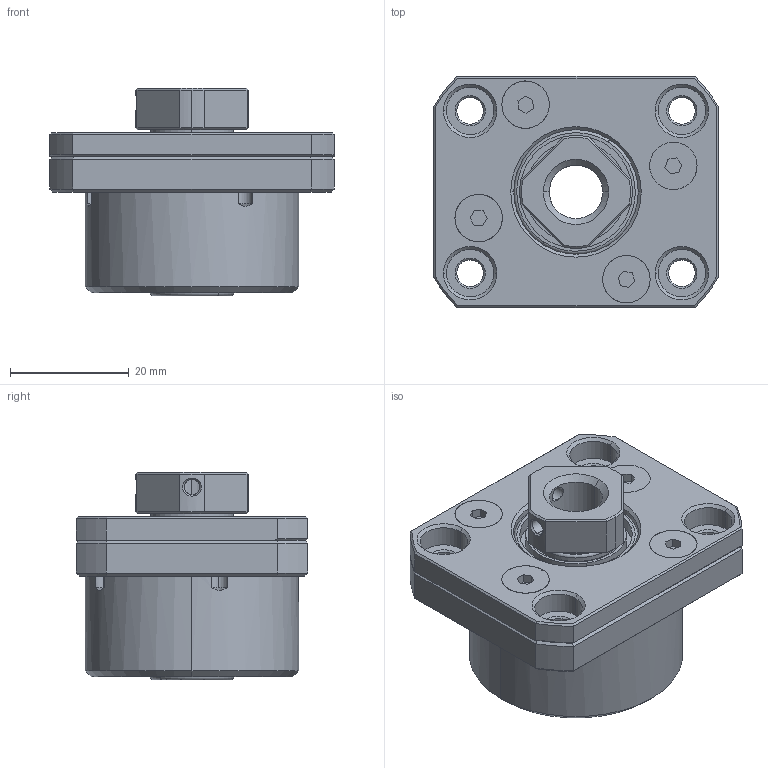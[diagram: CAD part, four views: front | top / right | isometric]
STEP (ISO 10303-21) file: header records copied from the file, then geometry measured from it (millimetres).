
FILE_DESCRIPTION (( 'STEP AP203' ), '1' );
FILE_NAME ('FKA10²Õ¦X¥óA.STEP', '2021-09-29T02:44:39', ( '' ), ( '' ), 'SwSTEP 2.0', 'SolidWorks 2018', '' );
FILE_SCHEMA (( 'CONFIG_CONTROL_DESIGN' ));
Length unit declared in the file: millimetre
Products named in the file (1): FKA10組合件A
Bounding box: 48 x 39 x 35 mm (x, y, z)
Surface area: 13302.4 mm2 (no closed solid volume)
Topology: 0 solids, 18 shells, 241 faces, 634 edges, 411 vertices
Faces by surface type: plane 84, cylinder 71, cone 64, torus 18, bspline 4
Entity records: 8116 total; most frequent: CARTESIAN_POINT 2000, DIRECTION 1339, ORIENTED_EDGE 1141, EDGE_CURVE 634, AXIS2_PLACEMENT_3D 544, VERTEX_POINT 411, CIRCLE 306, EDGE_LOOP 291
